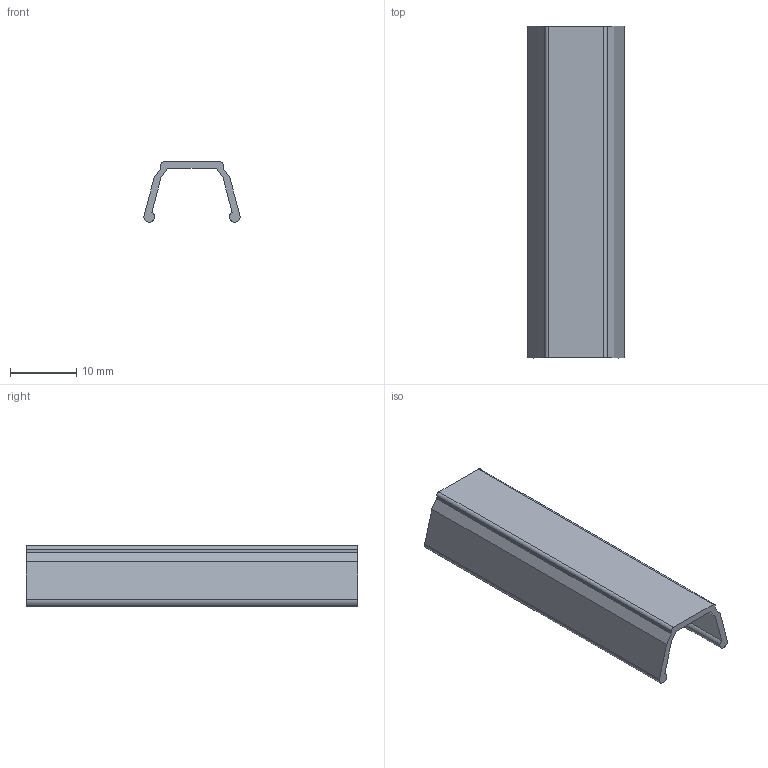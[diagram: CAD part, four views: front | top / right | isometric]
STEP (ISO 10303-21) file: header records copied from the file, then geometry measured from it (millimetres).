
FILE_DESCRIPTION(('STEP AP214'),'1');
FILE_NAME('SC4B.stp','2021-12-28T08:16:13',(' '),(' '),'Spatial InterOp 3D',' ',' ');
FILE_SCHEMA(('AUTOMOTIVE_DESIGN { 1 0 10303 214 1 1 1 1 }'));
Length unit declared in the file: millimetre
Products named in the file (1): SC4B
Bounding box: 14.49 x 50 x 9.1 mm (x, y, z)
Volume: 1348.6 mm3; surface area: 2797.3 mm2
Topology: 1 solids, 1 shells, 18 faces, 48 edges, 32 vertices
Faces by surface type: plane 14, cylinder 4
Entity records: 720 total; most frequent: CARTESIAN_POINT 99, ORIENTED_EDGE 96, DIRECTION 94, EDGE_CURVE 48, LINE 40, VECTOR 40, VERTEX_POINT 32, AXIS2_PLACEMENT_3D 27
